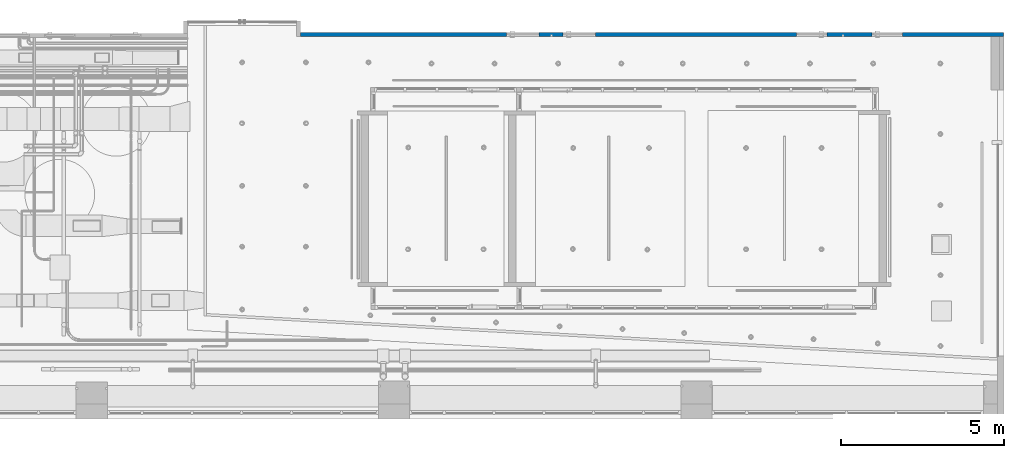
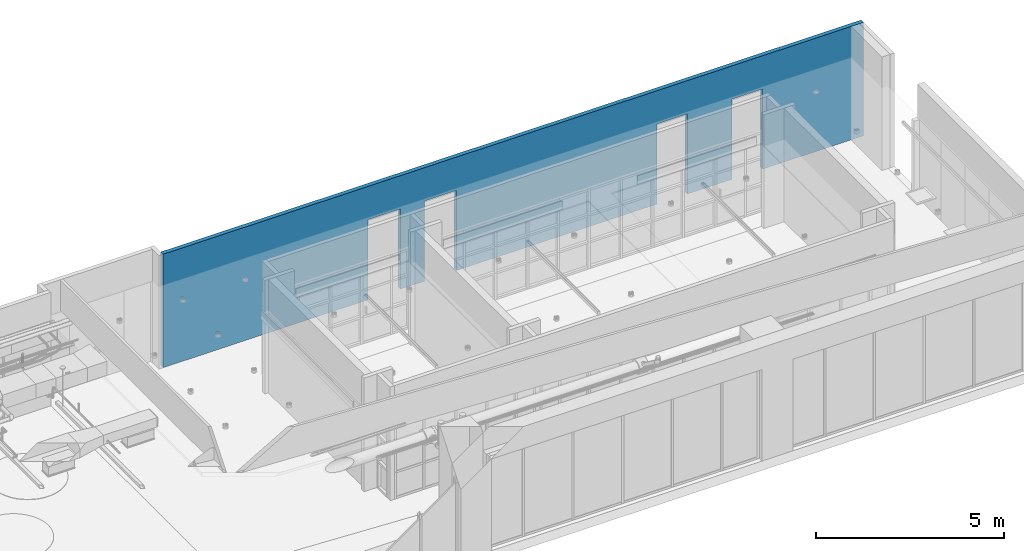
# One storey, part 19 of 108: 1 wall, 4 openings.
"""IFC4 building model written with IfcOpenShell, lengths in feet."""

from ifc_helpers import new_model, entity, si_unit, converted_unit, derived_unit, direction, frame, frame_2d, origin, place, context, subcontext, project, spatial, rectangle, extrude, material, layer, layer_set, layer_usage, type_object, element, save


model = new_model("IFC4")

# Units and contexts
model_context = context("Model", 3, precision=0.0001, world=origin(), true_north=direction((6.12303176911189e-17, 1.0)))
body_context = subcontext(model_context, "Body", "Model", "MODEL_VIEW")
ifc_project = project(units=[converted_unit("LENGTHUNIT", "FOOT", entity("IfcRatioMeasure", 0.3048), si_unit("LENGTHUNIT", "METRE"), dimensions=[1, 0, 0, 0, 0, 0, 0]), converted_unit("AREAUNIT", "SQUARE FOOT", entity("IfcRatioMeasure", 0.09290304), si_unit("AREAUNIT", "SQUARE_METRE"), dimensions=[2, 0, 0, 0, 0, 0, 0]), converted_unit("VOLUMEUNIT", "CUBIC FOOT", entity("IfcRatioMeasure", 0.028316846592), si_unit("VOLUMEUNIT", "CUBIC_METRE"), dimensions=[3, 0, 0, 0, 0, 0, 0]), converted_unit("PLANEANGLEUNIT", "DEGREE", entity("IfcRatioMeasure", 0.0174532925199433), si_unit("PLANEANGLEUNIT", "RADIAN"), dimensions=[0, 0, 0, 0, 0, 0, 0]), si_unit("MASSUNIT", "GRAM", prefix="KILO"), derived_unit("MASSDENSITYUNIT", [(si_unit("MASSUNIT", "GRAM", prefix="KILO"), 1), (si_unit("LENGTHUNIT", "METRE"), -3)]), si_unit("TIMEUNIT", "SECOND"), si_unit("FREQUENCYUNIT", "HERTZ"), si_unit("THERMODYNAMICTEMPERATUREUNIT", "DEGREE_CELSIUS"), derived_unit("THERMALTRANSMITTANCEUNIT", [(si_unit("MASSUNIT", "GRAM", prefix="KILO"), 1), (si_unit("THERMODYNAMICTEMPERATUREUNIT", "KELVIN"), -1), (si_unit("TIMEUNIT", "SECOND"), -3)]), derived_unit("VOLUMETRICFLOWRATEUNIT", [(si_unit("LENGTHUNIT", "METRE"), 3), (si_unit("TIMEUNIT", "SECOND"), -1)]), si_unit("ELECTRICCURRENTUNIT", "AMPERE"), si_unit("ELECTRICVOLTAGEUNIT", "VOLT"), si_unit("POWERUNIT", "WATT"), si_unit("FORCEUNIT", "NEWTON"), si_unit("ILLUMINANCEUNIT", "LUX"), si_unit("LUMINOUSFLUXUNIT", "LUMEN"), si_unit("LUMINOUSINTENSITYUNIT", "CANDELA"), derived_unit("USERDEFINED", [(si_unit("MASSUNIT", "GRAM", prefix="KILO"), -1), (si_unit("LENGTHUNIT", "METRE"), -2), (si_unit("TIMEUNIT", "SECOND"), 3), (si_unit("LUMINOUSFLUXUNIT", "LUMEN"), 1)]), derived_unit("LINEARVELOCITYUNIT", [(si_unit("LENGTHUNIT", "METRE"), 1), (si_unit("TIMEUNIT", "SECOND"), -1)]), si_unit("PRESSUREUNIT", "PASCAL"), derived_unit("USERDEFINED", [(si_unit("LENGTHUNIT", "METRE"), -2), (si_unit("MASSUNIT", "GRAM", prefix="KILO"), 1), (si_unit("TIMEUNIT", "SECOND"), -2)])], contexts=[model_context])

# Site, building, storey
site_placement = place(None, origin())
site = spatial("IfcSite", under=ifc_project, at=site_placement, Name="Default", CompositionType="ELEMENT")
building_placement = place(site_placement, origin())
building = spatial("IfcBuilding", under=site, at=building_placement, CompositionType="ELEMENT")
storey_placement = place(building_placement, frame((0.0, 0.0, 168.0)))
storey = spatial("IfcBuildingStorey", under=building, at=storey_placement, Name="Level 15", CompositionType="ELEMENT", Elevation=168.0)

# Wall, openings
ifc_material = material(Name="Default Wall", Category="Miscellaneous")
ifc_layer = layer(ifc_material, 0.416666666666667, Name="Default Wall", Category="Miscellaneous")
ifc_layer_set = layer_set([ifc_layer], Name="Basic Wall:Generic - 5\"")
ifc_layer_usage = layer_usage(ifc_layer_set, "AXIS2", "POSITIVE", -0.208333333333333)
wall_type = type_object("IfcWallType", Name="Basic Wall:Generic - 5\"", PredefinedType="NOTDEFINED", material=ifc_layer_set)
wall_placement = place(storey_placement, frame((-8.72429173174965, 15.5257335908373, 0.0)))
wall = element("IfcWall", 1, at=wall_placement, inside=storey, type_object=wall_type, material=ifc_layer_usage, Name="Basic Wall:Generic - 5\"", ObjectType="Basic Wall:Generic - 5\"", PredefinedType="NOTDEFINED", context=body_context, shape_type="SweptSolid", body=[
    extrude(rectangle(XDim=70.5622461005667, YDim=0.416666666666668, at=frame_2d((35.2811230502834, 6.38378239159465e-16), x_axis=(-1.0, 0.0))), origin(), (0.0, 0.0, 1.0), 12.0833333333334),
])
opening_1_placement = place(wall_placement, frame((23.9075544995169, 0.208333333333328, 0.0)))
element("IfcOpeningElement", 2, at=opening_1_placement, cuts=wall, Name="Door Single Panel:38\" x 102\":1", ObjectType="Opening", PredefinedType="OPENING", context=body_context, shape_type="SweptSolid", body=[
    extrude(rectangle(XDim=8.53280839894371, YDim=3.23228346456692, at=frame_2d((4.26640419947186, 1.61614173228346), x_axis=(1.0, 0.0))), frame((0.0, 0.0, 0.0), z_axis=(0.0, -1.0, 0.0), x_axis=(0.0, 0.0, 1.0)), (0.0, 0.0, 1.0), 0.416666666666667),
])
opening_2_placement = place(wall_placement, frame((29.5742211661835, 0.208333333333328, 0.0)))
element("IfcOpeningElement", 3, at=opening_2_placement, cuts=wall, Name="Door Single Panel:38\" x 102\":1", ObjectType="Opening", PredefinedType="OPENING", context=body_context, shape_type="SweptSolid", body=[
    extrude(rectangle(XDim=8.53280839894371, YDim=3.23228346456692, at=frame_2d((4.26640419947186, 1.61614173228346), x_axis=(1.0, 0.0))), frame((0.0, 0.0, 0.0), z_axis=(0.0, -1.0, 0.0), x_axis=(0.0, 0.0, 1.0)), (0.0, 0.0, 1.0), 0.416666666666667),
])
opening_3_placement = place(wall_placement, frame((49.7586043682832, -0.208333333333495, 0.0)))
element("IfcOpeningElement", 4, at=opening_3_placement, cuts=wall, Name="Door Single Panel:36\" x 102\":1", ObjectType="Opening", PredefinedType="OPENING", context=body_context, shape_type="SweptSolid", body=[
    extrude(rectangle(XDim=8.53280839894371, YDim=3.06561679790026, at=frame_2d((4.26640419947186, 1.53280839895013), x_axis=(1.0, 0.0))), frame((0.0, 0.0, 0.0), z_axis=(0.0, 1.0, 0.0), x_axis=(0.0, 0.0, 1.0)), (0.0, 0.0, 1.0), 0.416666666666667),
])
opening_4_placement = place(wall_placement, frame((57.3419377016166, -0.208333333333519, 0.0)))
element("IfcOpeningElement", 5, at=opening_4_placement, cuts=wall, Name="Door Single Panel:36\" x 102\":1", ObjectType="Opening", PredefinedType="OPENING", context=body_context, shape_type="SweptSolid", body=[
    extrude(rectangle(XDim=8.53280839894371, YDim=3.06561679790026, at=frame_2d((4.26640419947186, 1.53280839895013), x_axis=(1.0, 0.0))), frame((0.0, 0.0, 0.0), z_axis=(0.0, 1.0, 0.0), x_axis=(0.0, 0.0, 1.0)), (0.0, 0.0, 1.0), 0.416666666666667),
])

save(model, "model.ifc")
